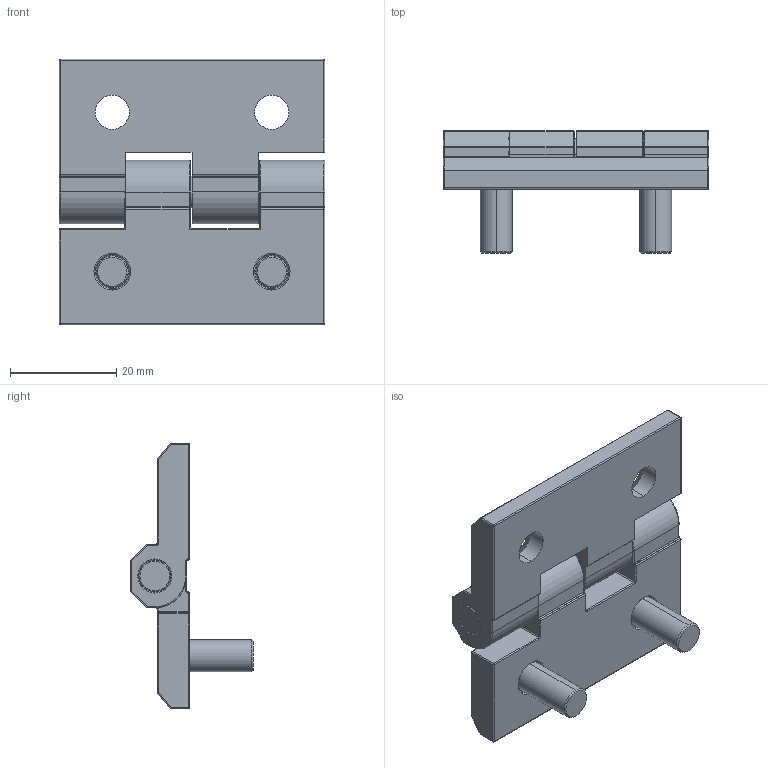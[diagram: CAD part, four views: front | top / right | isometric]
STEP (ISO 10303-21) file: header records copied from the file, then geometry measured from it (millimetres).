
FILE_DESCRIPTION (( 'STEP AP203' ), '1' );
FILE_NAME ('7214119.STEP', '2017-09-05T06:32:23', ( 'rquinn' ), ( '' ), 'SwSTEP 2.0', 'SolidWorks 2017', '' );
FILE_SCHEMA (( 'CONFIG_CONTROL_DESIGN' ));
Length unit declared in the file: millimetre
Products named in the file (3): 724119-1; 7214119-2; 7214119
Assembly tree (2 placements, depth 2):
  7214119
    724119-1
    7214119-2
Bounding box: 50 x 23 x 50 mm (x, y, z)
Volume: 16276.9 mm3; surface area: 8899.4 mm2
Topology: 4 solids, 4 shells, 271 faces, 615 edges, 331 vertices
Faces by surface type: cylinder 123, plane 58, torus 43, sphere 39, cone 8
Entity records: 7630 total; most frequent: DIRECTION 1463, CARTESIAN_POINT 1197, ORIENTED_EDGE 1180, AXIS2_PLACEMENT_3D 597, EDGE_CURVE 590, VERTEX_POINT 331, CIRCLE 321, EDGE_LOOP 285
